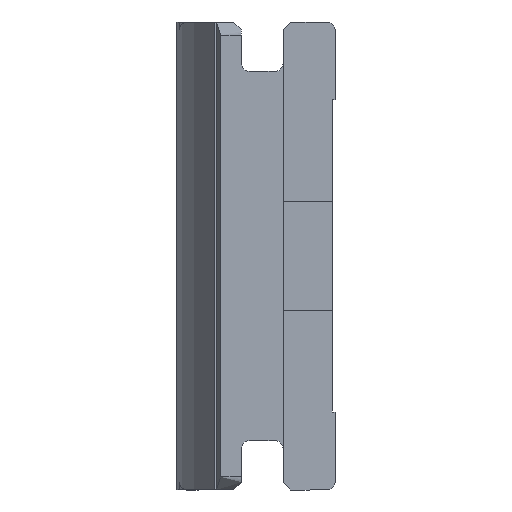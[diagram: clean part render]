
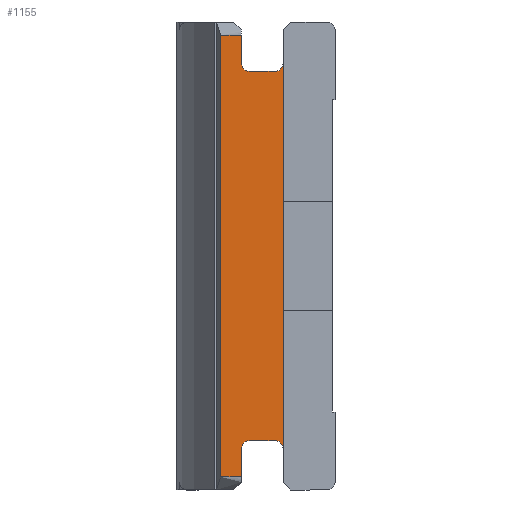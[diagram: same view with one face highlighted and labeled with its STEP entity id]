
A CAD part, left-side view. The second image highlights one B-rep face of the part: STEP entity #1155.
In plain terms, the highlighted planar face has unit normal (-1, 0, 0).
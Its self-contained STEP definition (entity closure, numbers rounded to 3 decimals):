
#17 = DIRECTION ( 'NONE',  ( 0., 0., -1. ) ) ;
#22 = VERTEX_POINT ( 'NONE', #834 ) ;
#37 = DIRECTION ( 'NONE',  ( 0., -1., 0. ) ) ;
#45 = CARTESIAN_POINT ( 'NONE',  ( 10., 1.9, -7.4 ) ) ;
#64 = CARTESIAN_POINT ( 'NONE',  ( 10., 3.5, -8.5 ) ) ;
#75 = EDGE_CURVE ( 'NONE', #242, #1594, #153, .T. ) ;
#152 = DIRECTION ( 'NONE',  ( 1., 0., 0. ) ) ;
#153 = LINE ( 'NONE', #1726, #748 ) ;
#168 = DIRECTION ( 'NONE',  ( 0., 0., -1. ) ) ;
#211 = CARTESIAN_POINT ( 'NONE',  ( 10., 4.3, -29.536 ) ) ;
#219 = DIRECTION ( 'NONE',  ( 0., 0., -1. ) ) ;
#233 = ORIENTED_EDGE ( 'NONE', *, *, #1859, .F. ) ;
#242 = VERTEX_POINT ( 'NONE', #1806 ) ;
#268 = EDGE_CURVE ( 'NONE', #1517, #928, #1241, .T. ) ;
#296 = DIRECTION ( 'NONE',  ( 0., 1., 0. ) ) ;
#322 = AXIS2_PLACEMENT_3D ( 'NONE', #942, #1530, #529 ) ;
#411 = CIRCLE ( 'NONE', #1466, 0.3 ) ;
#414 = CARTESIAN_POINT ( 'NONE',  ( 10., 3.2, -7.1 ) ) ;
#423 = VERTEX_POINT ( 'NONE', #64 ) ;
#427 = ORIENTED_EDGE ( 'NONE', *, *, #1129, .F. ) ;
#436 = VECTOR ( 'NONE', #1591, 1000. ) ;
#450 = LINE ( 'NONE', #582, #436 ) ;
#478 = CARTESIAN_POINT ( 'NONE',  ( 10., 4.3, 8.5 ) ) ;
#483 = EDGE_CURVE ( 'NONE', #1118, #640, #1189, .T. ) ;
#485 = CARTESIAN_POINT ( 'NONE',  ( 10., 1.9, 8.5 ) ) ;
#502 = LINE ( 'NONE', #1798, #1855 ) ;
#529 = DIRECTION ( 'NONE',  ( 0., 0., -1. ) ) ;
#547 = CARTESIAN_POINT ( 'NONE',  ( 10., 3.2, -7.4 ) ) ;
#582 = CARTESIAN_POINT ( 'NONE',  ( 10., 1.9, -8.5 ) ) ;
#589 = ORIENTED_EDGE ( 'NONE', *, *, #75, .F. ) ;
#590 = DIRECTION ( 'NONE',  ( -1., 0., 0. ) ) ;
#594 = CIRCLE ( 'NONE', #322, 0.3 ) ;
#604 = CARTESIAN_POINT ( 'NONE',  ( 10., 1.9, -29.536 ) ) ;
#608 = CARTESIAN_POINT ( 'NONE',  ( 10., 3.5, -7.4 ) ) ;
#617 = VECTOR ( 'NONE', #37, 1000. ) ;
#628 = DIRECTION ( 'NONE',  ( 0., 0., -1. ) ) ;
#640 = VERTEX_POINT ( 'NONE', #478 ) ;
#662 = CARTESIAN_POINT ( 'NONE',  ( 10., 3.5, 7.4 ) ) ;
#682 = VECTOR ( 'NONE', #924, 1000. ) ;
#710 = ORIENTED_EDGE ( 'NONE', *, *, #1656, .T. ) ;
#732 = CARTESIAN_POINT ( 'NONE',  ( 10., 2.2, -7.4 ) ) ;
#748 = VECTOR ( 'NONE', #296, 1000. ) ;
#760 = VECTOR ( 'NONE', #219, 1000. ) ;
#780 = EDGE_CURVE ( 'NONE', #1060, #22, #411, .T. ) ;
#796 = ORIENTED_EDGE ( 'NONE', *, *, #1471, .F. ) ;
#800 = EDGE_CURVE ( 'NONE', #928, #242, #994, .T. ) ;
#817 = VECTOR ( 'NONE', #1242, 1000. ) ;
#832 = EDGE_LOOP ( 'NONE', ( #1783, #857, #1675, #710, #233, #796, #589, #1651, #1637, #427, #1166, #1529 ) ) ;
#834 = CARTESIAN_POINT ( 'NONE',  ( 10., 3.2, 7.1 ) ) ;
#838 = VERTEX_POINT ( 'NONE', #608 ) ;
#850 = DIRECTION ( 'NONE',  ( 0., 0., -1. ) ) ;
#857 = ORIENTED_EDGE ( 'NONE', *, *, #483, .T. ) ;
#867 = LINE ( 'NONE', #981, #1355 ) ;
#871 = VERTEX_POINT ( 'NONE', #1739 ) ;
#878 = DIRECTION ( 'NONE',  ( 0., 0., -1. ) ) ;
#924 = DIRECTION ( 'NONE',  ( 0., 0., 1. ) ) ;
#926 = CARTESIAN_POINT ( 'NONE',  ( 10., 1.9, -29.536 ) ) ;
#928 = VERTEX_POINT ( 'NONE', #45 ) ;
#942 = CARTESIAN_POINT ( 'NONE',  ( 10., 2.2, 7.4 ) ) ;
#953 = EDGE_CURVE ( 'NONE', #871, #640, #1061, .T. ) ;
#981 = CARTESIAN_POINT ( 'NONE',  ( 10., 3.5, 8.7 ) ) ;
#992 = FACE_OUTER_BOUND ( 'NONE', #832, .T. ) ;
#994 = CIRCLE ( 'NONE', #1121, 0.3 ) ;
#996 = AXIS2_PLACEMENT_3D ( 'NONE', #604, #152, #1136 ) ;
#1012 = AXIS2_PLACEMENT_3D ( 'NONE', #547, #1157, #168 ) ;
#1060 = VERTEX_POINT ( 'NONE', #662 ) ;
#1061 = LINE ( 'NONE', #211, #682 ) ;
#1078 = CARTESIAN_POINT ( 'NONE',  ( 10., 3.5, 8.5 ) ) ;
#1118 = VERTEX_POINT ( 'NONE', #1078 ) ;
#1121 = AXIS2_PLACEMENT_3D ( 'NONE', #732, #1747, #878 ) ;
#1123 = VERTEX_POINT ( 'NONE', #1669 ) ;
#1126 = CARTESIAN_POINT ( 'NONE',  ( 10., 1.9, 7.4 ) ) ;
#1129 = EDGE_CURVE ( 'NONE', #1123, #1517, #594, .T. ) ;
#1136 = DIRECTION ( 'NONE',  ( 0., 0., -1. ) ) ;
#1155 = ADVANCED_FACE ( 'NONE', ( #992 ), #1295, .F. ) ;
#1157 = DIRECTION ( 'NONE',  ( -1., 0., 0. ) ) ;
#1166 = ORIENTED_EDGE ( 'NONE', *, *, #1730, .F. ) ;
#1189 = LINE ( 'NONE', #485, #817 ) ;
#1241 = LINE ( 'NONE', #926, #760 ) ;
#1242 = DIRECTION ( 'NONE',  ( 0., 1., 0. ) ) ;
#1295 = PLANE ( 'NONE',  #996 ) ;
#1300 = CARTESIAN_POINT ( 'NONE',  ( 10., 3.2, 7.4 ) ) ;
#1355 = VECTOR ( 'NONE', #850, 1000. ) ;
#1466 = AXIS2_PLACEMENT_3D ( 'NONE', #1300, #590, #17 ) ;
#1471 = EDGE_CURVE ( 'NONE', #1594, #838, #1749, .T. ) ;
#1517 = VERTEX_POINT ( 'NONE', #1126 ) ;
#1529 = ORIENTED_EDGE ( 'NONE', *, *, #780, .F. ) ;
#1530 = DIRECTION ( 'NONE',  ( -1., 0., 0. ) ) ;
#1591 = DIRECTION ( 'NONE',  ( 0., -1., 0. ) ) ;
#1594 = VERTEX_POINT ( 'NONE', #414 ) ;
#1615 = EDGE_CURVE ( 'NONE', #1118, #1060, #867, .T. ) ;
#1637 = ORIENTED_EDGE ( 'NONE', *, *, #268, .F. ) ;
#1651 = ORIENTED_EDGE ( 'NONE', *, *, #800, .F. ) ;
#1656 = EDGE_CURVE ( 'NONE', #871, #423, #450, .T. ) ;
#1669 = CARTESIAN_POINT ( 'NONE',  ( 10., 2.2, 7.1 ) ) ;
#1675 = ORIENTED_EDGE ( 'NONE', *, *, #953, .F. ) ;
#1726 = CARTESIAN_POINT ( 'NONE',  ( 10., 3.2, -7.1 ) ) ;
#1730 = EDGE_CURVE ( 'NONE', #22, #1123, #1759, .T. ) ;
#1732 = CARTESIAN_POINT ( 'NONE',  ( 10., 3.2, 7.1 ) ) ;
#1739 = CARTESIAN_POINT ( 'NONE',  ( 10., 4.3, -8.5 ) ) ;
#1747 = DIRECTION ( 'NONE',  ( -1., 0., 0. ) ) ;
#1749 = CIRCLE ( 'NONE', #1012, 0.3 ) ;
#1759 = LINE ( 'NONE', #1732, #617 ) ;
#1783 = ORIENTED_EDGE ( 'NONE', *, *, #1615, .F. ) ;
#1798 = CARTESIAN_POINT ( 'NONE',  ( 10., 3.5, -8.7 ) ) ;
#1806 = CARTESIAN_POINT ( 'NONE',  ( 10., 2.2, -7.1 ) ) ;
#1855 = VECTOR ( 'NONE', #628, 1000. ) ;
#1859 = EDGE_CURVE ( 'NONE', #838, #423, #502, .T. ) ;
